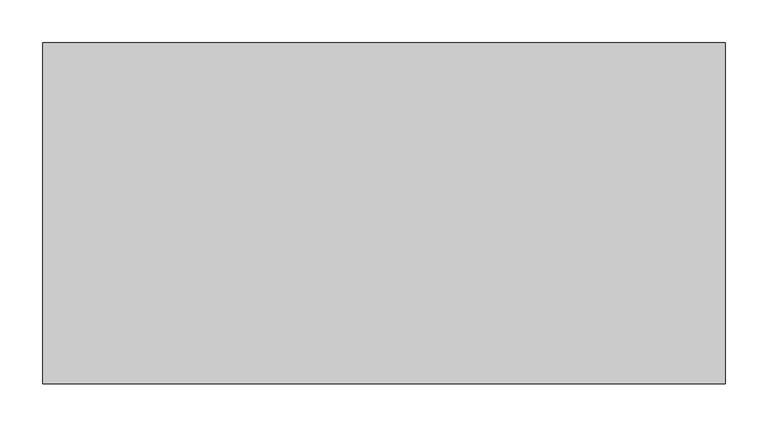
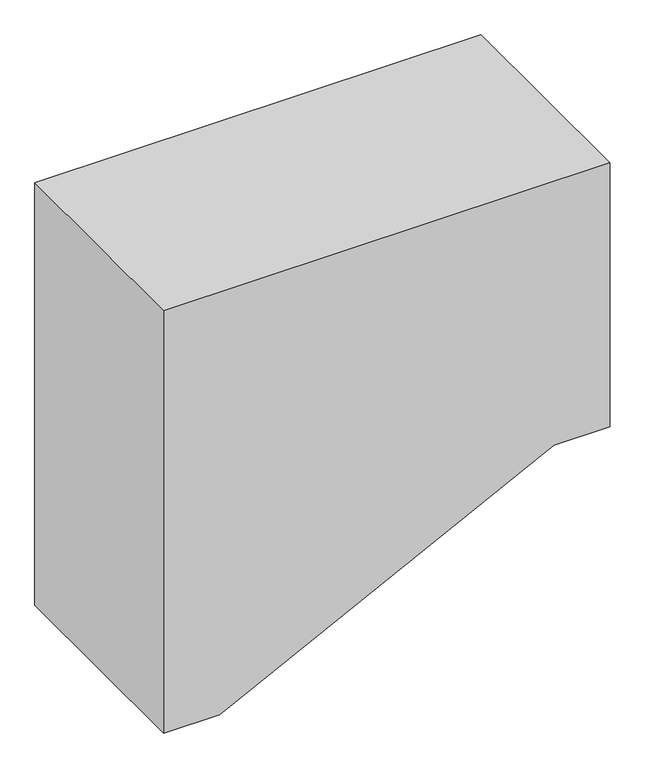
"""IFC4 building model written with IfcOpenShell, lengths in millimetres: duct fitting geometry, 2017_Reducción_Climaver_Reducción-Rectangular-a-una-cara-horizontal-en-U : Reducción en U a cara horizontal."""

from ifc_helpers import new_model, si_unit, frame, origin, place, context, project, spatial, polyline, outline, extrude, source, transform, mapped, element, save


def duct_fitting_067725df(model_context):
    return source(origin(), model_context, "Body", "SweptSolid", [
        extrude(outline(polyline([(400.0, -400.0), (-400.0, -400.0), (-400.0, -300.0), (-100.0, 300.0), (-100.0, 400.0), (400.0, 400.0), (400.0, -400.0)])), frame((0.0, -200.0, 0.0), z_axis=(0.0, 1.0, 0.0), x_axis=(0.0, 0.0, 1.0)), (0.0, 0.0, 1.0), 400.0),
    ])


if __name__ == "__main__":
    model = new_model("IFC4")
    model_context = context("Model", 3, world=origin())
    ifc_project = project(units=[si_unit("LENGTHUNIT", "METRE", prefix="MILLI")], contexts=[model_context])
    site = spatial("IfcSite", under=ifc_project)
    building = spatial("IfcBuilding", under=site)
    placement = place(None, origin())
    duct_fitting_shape = duct_fitting_067725df(model_context)
    element("IfcDuctFitting", 1, ObjectType="2017_Reducción_Climaver_Reducción-Rectangular-a-una-cara-horizontal-en-U : Reducción en U a cara horizontal", at=placement, inside=building, context=model_context, shape_type="MappedRepresentation", body=[
        mapped(duct_fitting_shape, transform((0.0, 0.0, 0.0), x_axis=(1.0, 0.0, 0.0), y_axis=(0.0, 1.0, 0.0), z_axis=(0.0, 0.0, 1.0))),
    ])
    save(model, "model.ifc")
